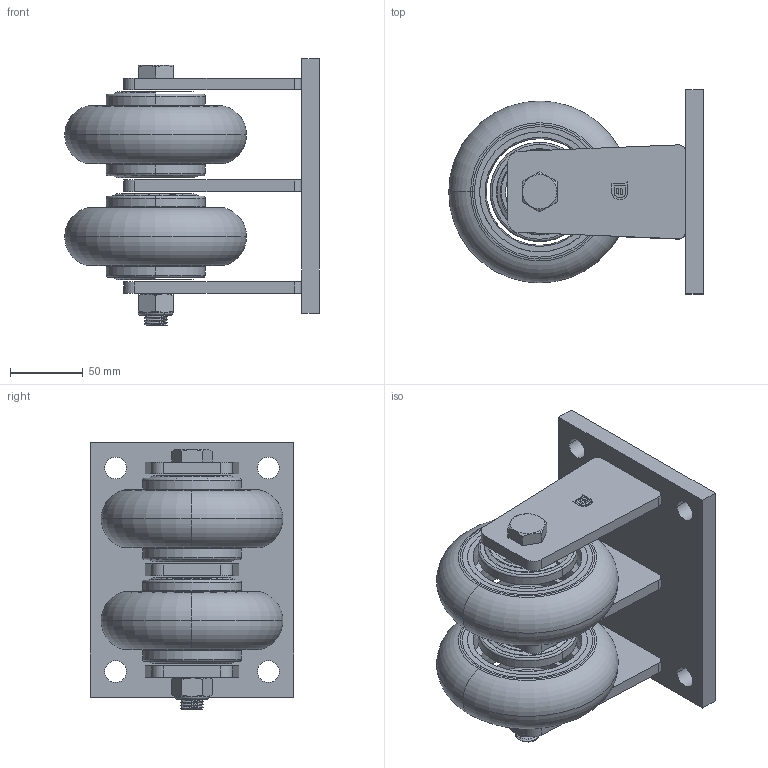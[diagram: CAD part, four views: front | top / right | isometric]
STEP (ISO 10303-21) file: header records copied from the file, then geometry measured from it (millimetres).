
FILE_DESCRIPTION((''),'2;1');
FILE_NAME('PRT0013','2025-05-07T18:49:31',('Administrator'),(''),'CREO PARAMETRIC BY PTC INC, 2022124','CREO PARAMETRIC BY PTC INC, 2022124','');
FILE_SCHEMA(('AP203_CONFIGURATION_CONTROLLED_3D_DESIGN_OF_MECHANICAL_PARTS_AND_ASSEMBLIES_MIM_LF { 1 0 10303 403 2 1 2 }'));
Length unit declared in the file: millimetre
Products named in the file (1): PRT0013
Bounding box: 175 x 140 x 183.5 mm (x, y, z)
Surface area: 186302.9 mm2 (no closed solid volume)
Topology: 0 solids, 22 shells, 178 faces, 516 edges, 360 vertices
Faces by surface type: cylinder 56, plane 55, torus 41, cone 22, bspline 4
Entity records: 8931 total; most frequent: CARTESIAN_POINT 2918, DIRECTION 1038, ORIENTED_EDGE 832, EDGE_CURVE 516, AXIS2_PLACEMENT_3D 432, VERTEX_POINT 360, CIRCLE 248, EDGE_LOOP 212
